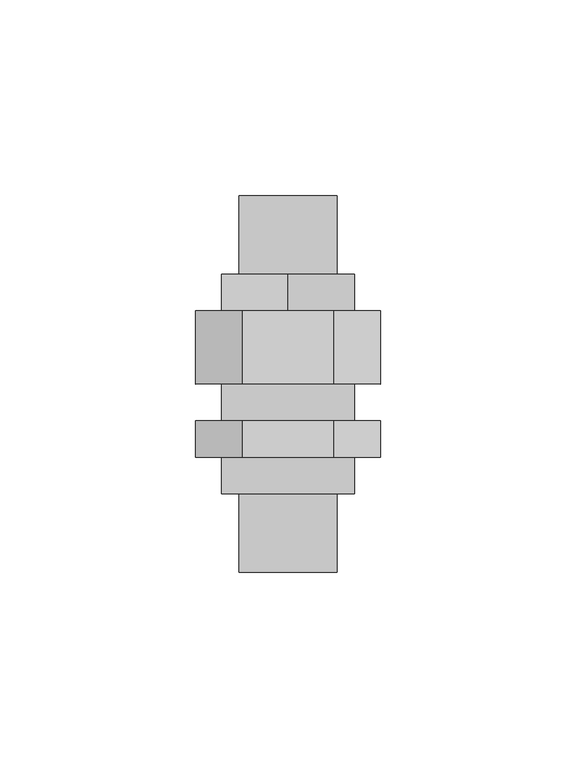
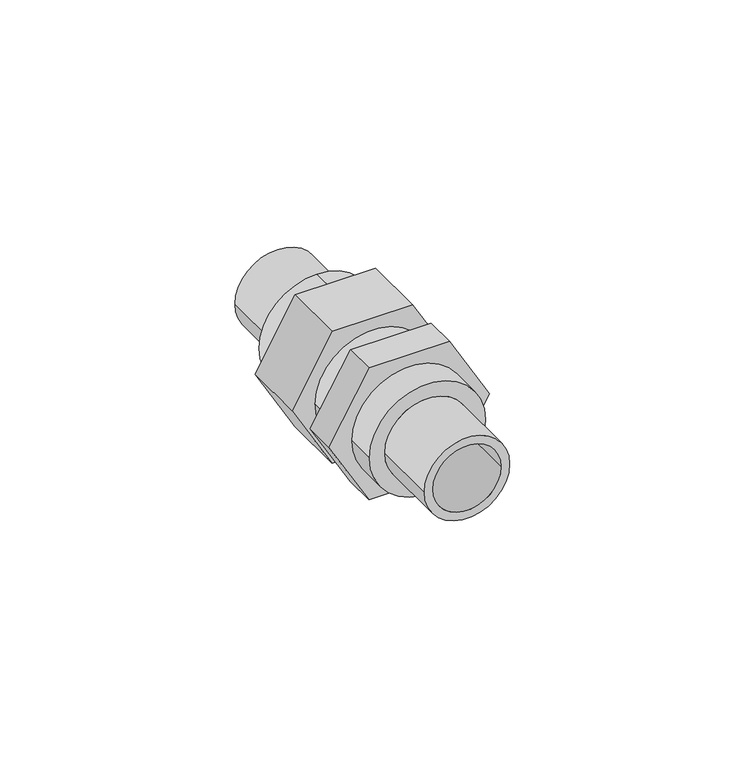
"""IFC4 building model written with IfcOpenShell, lengths in millimetres: pipe fitting geometry, EGB_VASEN_ PPR_Union plastico plastico WXR105 : Unión plástico plástico WXR105."""

from ifc_helpers import new_model, si_unit, point, frame, origin, origin_2d, place, context, project, spatial, polyline, circle_curve, trimmed, segment, composite_curve, outline, extrude, source, transform, mapped, element, save


def pipe_fitting_f79f719c(model_context):
    return source(origin(), model_context, "Body", "SweptSolid", [
        extrude(outline(polyline([(0.0, 23.555891), (20.4, 11.7779455), (20.4, -11.7779455), (0.0, -23.555891), (-20.4, -11.7779455), (-20.4, 11.7779455), (0.0, 23.555891)])), frame((0.0, -30.5229167, 0.0), z_axis=(0.0, 1.0, 0.0), x_axis=(0.0, 0.0, 1.0)), (0.0, 0.0, 1.0), 9.3333333),
        extrude(outline(polyline([(0.0, 23.555891), (20.4, 11.7779455), (20.4, -11.7779455), (0.0, -23.555891), (-20.4, -11.7779455), (-20.4, 11.7779455), (0.0, 23.555891)])), frame((0.0, -11.85625, 0.0), z_axis=(0.0, 1.0, 0.0), x_axis=(0.0, 0.0, 1.0)), (0.0, 0.0, 1.0), 18.6666667),
        extrude(outline(composite_curve([segment(trimmed(circle_curve(origin_2d(), 17.0), [point((0.0, -17.0))], [point((0.0, 17.0))], False, "CARTESIAN"), True, "CONTINUOUS"), segment(trimmed(circle_curve(origin_2d(), 17.0), [point((0.0, 17.0))], [point((0.0, -17.0))], False, "CARTESIAN"), True, "CONTINUOUS")], self_intersect=False), holes=[composite_curve([segment(trimmed(circle_curve(origin_2d(), 12.5), [point((0.0, -12.5))], [point((0.0, 12.5))], True, "CARTESIAN"), True, "CONTINUOUS"), segment(trimmed(circle_curve(origin_2d(), 12.5), [point((0.0, 12.5))], [point((0.0, -12.5))], True, "CARTESIAN"), True, "CONTINUOUS")], self_intersect=False)]), frame((0.0, -39.85625, 0.0), z_axis=(0.0, 1.0, 0.0), x_axis=(0.0, 0.0, 1.0)), (0.0, 0.0, 1.0), 9.3333333),
        extrude(outline(composite_curve([segment(trimmed(circle_curve(origin_2d(), 17.0), [point((-17.0, 0.0))], [point((17.0, 0.0))], False, "CARTESIAN"), True, "CONTINUOUS"), segment(trimmed(circle_curve(origin_2d(), 17.0), [point((17.0, 0.0))], [point((-17.0, 0.0))], False, "CARTESIAN"), True, "CONTINUOUS")], self_intersect=False), holes=[composite_curve([segment(trimmed(circle_curve(origin_2d(), 12.5), [point((-12.5, 0.0))], [point((12.5, 0.0))], True, "CARTESIAN"), True, "CONTINUOUS"), segment(trimmed(circle_curve(origin_2d(), 12.5), [point((12.5, 0.0))], [point((-12.5, 0.0))], True, "CARTESIAN"), True, "CONTINUOUS")], self_intersect=False)]), frame((0.0, 6.8104167, 0.0), z_axis=(0.0, 1.0, 0.0), x_axis=(0.0, 0.0, 1.0)), (0.0, 0.0, 1.0), 9.3333333),
        extrude(outline(composite_curve([segment(trimmed(circle_curve(origin_2d(), 12.5), [point((0.0, -12.5))], [point((0.0, 12.5))], False, "CARTESIAN"), True, "CONTINUOUS"), segment(trimmed(circle_curve(origin_2d(), 12.5), [point((0.0, 12.5))], [point((0.0, -12.5))], False, "CARTESIAN"), True, "CONTINUOUS")], self_intersect=False), holes=[composite_curve([segment(trimmed(circle_curve(origin_2d(), 10.0), [point((0.0, -10.0))], [point((0.0, 10.0))], True, "CARTESIAN"), True, "CONTINUOUS"), segment(trimmed(circle_curve(origin_2d(), 10.0), [point((0.0, 10.0))], [point((0.0, -10.0))], True, "CARTESIAN"), True, "CONTINUOUS")], self_intersect=False)]), frame((0.0, -59.85625, 0.0), z_axis=(0.0, 1.0, 0.0), x_axis=(0.0, 0.0, 1.0)), (0.0, 0.0, 1.0), 20.0),
        extrude(outline(composite_curve([segment(trimmed(circle_curve(origin_2d(), 12.5), [point((0.0, -12.5))], [point((0.0, 12.5))], False, "CARTESIAN"), True, "CONTINUOUS"), segment(trimmed(circle_curve(origin_2d(), 12.5), [point((0.0, 12.5))], [point((0.0, -12.5))], False, "CARTESIAN"), True, "CONTINUOUS")], self_intersect=False), holes=[composite_curve([segment(trimmed(circle_curve(origin_2d(), 10.0), [point((0.0, -10.0))], [point((0.0, 10.0))], True, "CARTESIAN"), True, "CONTINUOUS"), segment(trimmed(circle_curve(origin_2d(), 10.0), [point((0.0, 10.0))], [point((0.0, -10.0))], True, "CARTESIAN"), True, "CONTINUOUS")], self_intersect=False)]), frame((0.0, 16.14375, 0.0), z_axis=(0.0, 1.0, 0.0), x_axis=(0.0, 0.0, 1.0)), (0.0, 0.0, 1.0), 20.0),
        extrude(outline(composite_curve([segment(trimmed(circle_curve(origin_2d(), 17.0), [point((0.0, -17.0))], [point((0.0, 17.0))], False, "CARTESIAN"), True, "CONTINUOUS"), segment(trimmed(circle_curve(origin_2d(), 17.0), [point((0.0, 17.0))], [point((0.0, -17.0))], False, "CARTESIAN"), True, "CONTINUOUS")], self_intersect=False)), frame((0.0, -21.1895833, 0.0), z_axis=(0.0, 1.0, 0.0), x_axis=(0.0, 0.0, 1.0)), (0.0, 0.0, 1.0), 9.3333333),
    ])


if __name__ == "__main__":
    model = new_model("IFC4")
    model_context = context("Model", 3, world=origin())
    ifc_project = project(units=[si_unit("LENGTHUNIT", "METRE", prefix="MILLI")], contexts=[model_context])
    site = spatial("IfcSite", under=ifc_project)
    building = spatial("IfcBuilding", under=site)
    placement = place(None, origin())
    pipe_fitting_shape = pipe_fitting_f79f719c(model_context)
    element("IfcPipeFitting", 1, ObjectType="EGB_VASEN_ PPR_Union plastico plastico WXR105 : Unión plástico plástico WXR105", at=placement, inside=building, context=model_context, shape_type="MappedRepresentation", body=[
        mapped(pipe_fitting_shape, transform((0.0, 0.0, 0.0), x_axis=(1.0, 0.0, 0.0), y_axis=(0.0, 1.0, 0.0), z_axis=(0.0, 0.0, 1.0))),
    ])
    save(model, "model.ifc")
